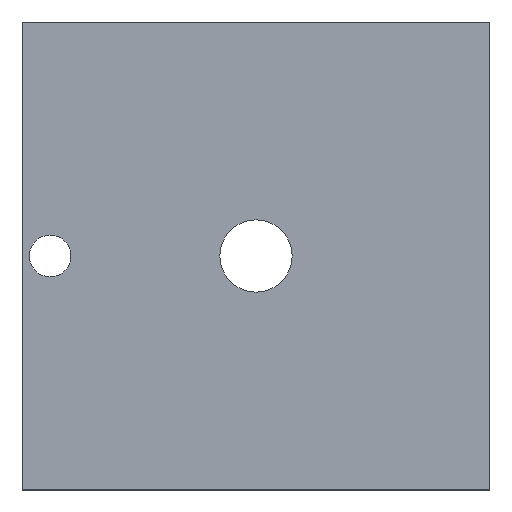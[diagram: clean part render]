
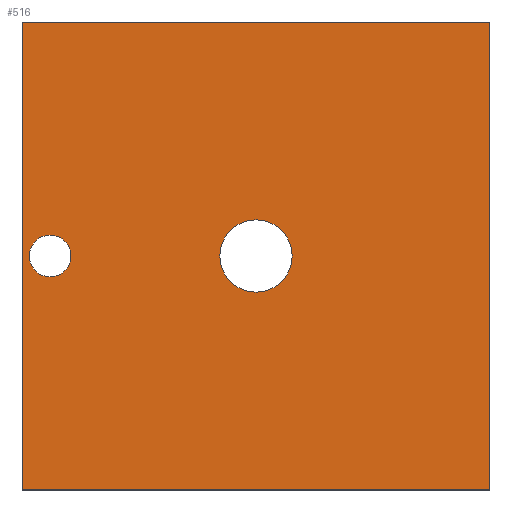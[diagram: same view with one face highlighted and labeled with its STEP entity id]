
A CAD part, top view. The second image highlights one B-rep face of the part: STEP entity #516.
In plain terms, the highlighted planar face has unit normal (0, 0, 1).
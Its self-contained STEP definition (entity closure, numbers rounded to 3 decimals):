
#24 = VERTEX_POINT('',#25);
#25 = CARTESIAN_POINT('',(841.,-841.,3.));
#32 = PLANE('',#33);
#33 = AXIS2_PLACEMENT_3D('',#34,#35,#36);
#34 = CARTESIAN_POINT('',(841.,-841.,0.));
#35 = DIRECTION('',(-0.,1.,-0.));
#36 = DIRECTION('',(1.,0.,0.));
#44 = PLANE('',#45);
#45 = AXIS2_PLACEMENT_3D('',#46,#47,#48);
#46 = CARTESIAN_POINT('',(841.,841.,0.));
#47 = DIRECTION('',(-1.,-0.,-0.));
#48 = DIRECTION('',(0.,1.,0.));
#56 = EDGE_CURVE('',#24,#57,#59,.T.);
#57 = VERTEX_POINT('',#58);
#58 = CARTESIAN_POINT('',(-841.,-841.,3.));
#59 = SURFACE_CURVE('',#60,(#64,#71),.PCURVE_S1.);
#60 = LINE('',#61,#62);
#61 = CARTESIAN_POINT('',(841.,-841.,3.));
#62 = VECTOR('',#63,1.);
#63 = DIRECTION('',(-1.,-0.,-0.));
#64 = PCURVE('',#32,#65);
#65 = DEFINITIONAL_REPRESENTATION('',(#66),#70);
#66 = LINE('',#67,#68);
#67 = CARTESIAN_POINT('',(-0.,-3.));
#68 = VECTOR('',#69,1.);
#69 = DIRECTION('',(-1.,0.));
#70 = ( GEOMETRIC_REPRESENTATION_CONTEXT(2) 
PARAMETRIC_REPRESENTATION_CONTEXT() REPRESENTATION_CONTEXT('2D SPACE',''
  ) );
#71 = PCURVE('',#72,#77);
#72 = PLANE('',#73);
#73 = AXIS2_PLACEMENT_3D('',#74,#75,#76);
#74 = CARTESIAN_POINT('',(0.,0.,3.));
#75 = DIRECTION('',(-0.,-0.,1.));
#76 = DIRECTION('',(1.,0.,0.));
#77 = DEFINITIONAL_REPRESENTATION('',(#78),#82);
#78 = LINE('',#79,#80);
#79 = CARTESIAN_POINT('',(841.,-841.));
#80 = VECTOR('',#81,1.);
#81 = DIRECTION('',(-1.,0.));
#82 = ( GEOMETRIC_REPRESENTATION_CONTEXT(2) 
PARAMETRIC_REPRESENTATION_CONTEXT() REPRESENTATION_CONTEXT('2D SPACE',''
  ) );
#100 = PLANE('',#101);
#101 = AXIS2_PLACEMENT_3D('',#102,#103,#104);
#102 = CARTESIAN_POINT('',(-841.,-841.,0.));
#103 = DIRECTION('',(1.,-0.,-0.));
#104 = DIRECTION('',(0.,-1.,0.));
#142 = EDGE_CURVE('',#57,#143,#145,.T.);
#143 = VERTEX_POINT('',#144);
#144 = CARTESIAN_POINT('',(-841.,841.,3.));
#145 = SURFACE_CURVE('',#146,(#150,#157),.PCURVE_S1.);
#146 = LINE('',#147,#148);
#147 = CARTESIAN_POINT('',(-841.,-841.,3.));
#148 = VECTOR('',#149,1.);
#149 = DIRECTION('',(-0.,1.,-0.));
#150 = PCURVE('',#100,#151);
#151 = DEFINITIONAL_REPRESENTATION('',(#152),#156);
#152 = LINE('',#153,#154);
#153 = CARTESIAN_POINT('',(-0.,-3.));
#154 = VECTOR('',#155,1.);
#155 = DIRECTION('',(-1.,0.));
#156 = ( GEOMETRIC_REPRESENTATION_CONTEXT(2) 
PARAMETRIC_REPRESENTATION_CONTEXT() REPRESENTATION_CONTEXT('2D SPACE',''
  ) );
#157 = PCURVE('',#72,#158);
#158 = DEFINITIONAL_REPRESENTATION('',(#159),#163);
#159 = LINE('',#160,#161);
#160 = CARTESIAN_POINT('',(-841.,-841.));
#161 = VECTOR('',#162,1.);
#162 = DIRECTION('',(-0.,1.));
#163 = ( GEOMETRIC_REPRESENTATION_CONTEXT(2) 
PARAMETRIC_REPRESENTATION_CONTEXT() REPRESENTATION_CONTEXT('2D SPACE',''
  ) );
#181 = PLANE('',#182);
#182 = AXIS2_PLACEMENT_3D('',#183,#184,#185);
#183 = CARTESIAN_POINT('',(-841.,841.,0.));
#184 = DIRECTION('',(-0.,-1.,-0.));
#185 = DIRECTION('',(-1.,0.,0.));
#218 = EDGE_CURVE('',#143,#219,#221,.T.);
#219 = VERTEX_POINT('',#220);
#220 = CARTESIAN_POINT('',(841.,841.,3.));
#221 = SURFACE_CURVE('',#222,(#226,#233),.PCURVE_S1.);
#222 = LINE('',#223,#224);
#223 = CARTESIAN_POINT('',(-841.,841.,3.));
#224 = VECTOR('',#225,1.);
#225 = DIRECTION('',(1.,-0.,-0.));
#226 = PCURVE('',#181,#227);
#227 = DEFINITIONAL_REPRESENTATION('',(#228),#232);
#228 = LINE('',#229,#230);
#229 = CARTESIAN_POINT('',(-0.,-3.));
#230 = VECTOR('',#231,1.);
#231 = DIRECTION('',(-1.,0.));
#232 = ( GEOMETRIC_REPRESENTATION_CONTEXT(2) 
PARAMETRIC_REPRESENTATION_CONTEXT() REPRESENTATION_CONTEXT('2D SPACE',''
  ) );
#233 = PCURVE('',#72,#234);
#234 = DEFINITIONAL_REPRESENTATION('',(#235),#239);
#235 = LINE('',#236,#237);
#236 = CARTESIAN_POINT('',(-841.,841.));
#237 = VECTOR('',#238,1.);
#238 = DIRECTION('',(1.,-0.));
#239 = ( GEOMETRIC_REPRESENTATION_CONTEXT(2) 
PARAMETRIC_REPRESENTATION_CONTEXT() REPRESENTATION_CONTEXT('2D SPACE',''
  ) );
#289 = EDGE_CURVE('',#219,#24,#290,.T.);
#290 = SURFACE_CURVE('',#291,(#295,#302),.PCURVE_S1.);
#291 = LINE('',#292,#293);
#292 = CARTESIAN_POINT('',(841.,841.,3.));
#293 = VECTOR('',#294,1.);
#294 = DIRECTION('',(-0.,-1.,-0.));
#295 = PCURVE('',#44,#296);
#296 = DEFINITIONAL_REPRESENTATION('',(#297),#301);
#297 = LINE('',#298,#299);
#298 = CARTESIAN_POINT('',(-0.,-3.));
#299 = VECTOR('',#300,1.);
#300 = DIRECTION('',(-1.,0.));
#301 = ( GEOMETRIC_REPRESENTATION_CONTEXT(2) 
PARAMETRIC_REPRESENTATION_CONTEXT() REPRESENTATION_CONTEXT('2D SPACE',''
  ) );
#302 = PCURVE('',#72,#303);
#303 = DEFINITIONAL_REPRESENTATION('',(#304),#308);
#304 = LINE('',#305,#306);
#305 = CARTESIAN_POINT('',(841.,841.));
#306 = VECTOR('',#307,1.);
#307 = DIRECTION('',(-0.,-1.));
#308 = ( GEOMETRIC_REPRESENTATION_CONTEXT(2) 
PARAMETRIC_REPRESENTATION_CONTEXT() REPRESENTATION_CONTEXT('2D SPACE',''
  ) );
#338 = VERTEX_POINT('',#339);
#339 = CARTESIAN_POINT('',(-130.,0.,3.));
#346 = CYLINDRICAL_SURFACE('',#347,130.);
#347 = AXIS2_PLACEMENT_3D('',#348,#349,#350);
#348 = CARTESIAN_POINT('',(0.,0.,0.));
#349 = DIRECTION('',(0.,-0.,-1.));
#350 = DIRECTION('',(-1.,-0.,-0.));
#365 = EDGE_CURVE('',#338,#338,#366,.T.);
#366 = SURFACE_CURVE('',#367,(#372,#379),.PCURVE_S1.);
#367 = CIRCLE('',#368,130.);
#368 = AXIS2_PLACEMENT_3D('',#369,#370,#371);
#369 = CARTESIAN_POINT('',(0.,0.,3.));
#370 = DIRECTION('',(0.,0.,-1.));
#371 = DIRECTION('',(-1.,-0.,-0.));
#372 = PCURVE('',#346,#373);
#373 = DEFINITIONAL_REPRESENTATION('',(#374),#378);
#374 = LINE('',#375,#376);
#375 = CARTESIAN_POINT('',(0.,-3.));
#376 = VECTOR('',#377,1.);
#377 = DIRECTION('',(1.,0.));
#378 = ( GEOMETRIC_REPRESENTATION_CONTEXT(2) 
PARAMETRIC_REPRESENTATION_CONTEXT() REPRESENTATION_CONTEXT('2D SPACE',''
  ) );
#379 = PCURVE('',#72,#380);
#380 = DEFINITIONAL_REPRESENTATION('',(#381),#389);
#381 = ( BOUNDED_CURVE() B_SPLINE_CURVE(2,(#382,#383,#384,#385,#386,#387
,#388),.UNSPECIFIED.,.T.,.F.) B_SPLINE_CURVE_WITH_KNOTS((1,2,2,2,2,1),(
    -2.094,0.,2.094,4.189,6.283,
8.378),.UNSPECIFIED.) CURVE() GEOMETRIC_REPRESENTATION_ITEM() 
RATIONAL_B_SPLINE_CURVE((1.,0.5,1.,0.5,1.,0.5,1.)) REPRESENTATION_ITEM(
  '') );
#382 = CARTESIAN_POINT('',(-130.,0.));
#383 = CARTESIAN_POINT('',(-130.,225.167));
#384 = CARTESIAN_POINT('',(65.,112.583));
#385 = CARTESIAN_POINT('',(260.,0.));
#386 = CARTESIAN_POINT('',(65.,-112.583));
#387 = CARTESIAN_POINT('',(-130.,-225.167));
#388 = CARTESIAN_POINT('',(-130.,0.));
#389 = ( GEOMETRIC_REPRESENTATION_CONTEXT(2) 
PARAMETRIC_REPRESENTATION_CONTEXT() REPRESENTATION_CONTEXT('2D SPACE',''
  ) );
#424 = VERTEX_POINT('',#425);
#425 = CARTESIAN_POINT('',(-815.,0.,3.));
#432 = CYLINDRICAL_SURFACE('',#433,75.);
#433 = AXIS2_PLACEMENT_3D('',#434,#435,#436);
#434 = CARTESIAN_POINT('',(-740.,0.,0.));
#435 = DIRECTION('',(0.,-0.,-1.));
#436 = DIRECTION('',(-1.,-0.,-0.));
#451 = EDGE_CURVE('',#424,#424,#452,.T.);
#452 = SURFACE_CURVE('',#453,(#458,#465),.PCURVE_S1.);
#453 = CIRCLE('',#454,75.);
#454 = AXIS2_PLACEMENT_3D('',#455,#456,#457);
#455 = CARTESIAN_POINT('',(-740.,0.,3.));
#456 = DIRECTION('',(0.,0.,-1.));
#457 = DIRECTION('',(-1.,-0.,-0.));
#458 = PCURVE('',#432,#459);
#459 = DEFINITIONAL_REPRESENTATION('',(#460),#464);
#460 = LINE('',#461,#462);
#461 = CARTESIAN_POINT('',(0.,-3.));
#462 = VECTOR('',#463,1.);
#463 = DIRECTION('',(1.,0.));
#464 = ( GEOMETRIC_REPRESENTATION_CONTEXT(2) 
PARAMETRIC_REPRESENTATION_CONTEXT() REPRESENTATION_CONTEXT('2D SPACE',''
  ) );
#465 = PCURVE('',#72,#466);
#466 = DEFINITIONAL_REPRESENTATION('',(#467),#475);
#467 = ( BOUNDED_CURVE() B_SPLINE_CURVE(2,(#468,#469,#470,#471,#472,#473
,#474),.UNSPECIFIED.,.T.,.F.) B_SPLINE_CURVE_WITH_KNOTS((1,2,2,2,2,1),(
    -2.094,0.,2.094,4.189,6.283,
8.378),.UNSPECIFIED.) CURVE() GEOMETRIC_REPRESENTATION_ITEM() 
RATIONAL_B_SPLINE_CURVE((1.,0.5,1.,0.5,1.,0.5,1.)) REPRESENTATION_ITEM(
  '') );
#468 = CARTESIAN_POINT('',(-815.,0.));
#469 = CARTESIAN_POINT('',(-815.,129.904));
#470 = CARTESIAN_POINT('',(-702.5,64.952));
#471 = CARTESIAN_POINT('',(-590.,0.));
#472 = CARTESIAN_POINT('',(-702.5,-64.952));
#473 = CARTESIAN_POINT('',(-815.,-129.904));
#474 = CARTESIAN_POINT('',(-815.,0.));
#475 = ( GEOMETRIC_REPRESENTATION_CONTEXT(2) 
PARAMETRIC_REPRESENTATION_CONTEXT() REPRESENTATION_CONTEXT('2D SPACE',''
  ) );
#516 = ADVANCED_FACE('',(#517,#523,#526),#72,.T.);
#517 = FACE_BOUND('',#518,.F.);
#518 = EDGE_LOOP('',(#519,#520,#521,#522));
#519 = ORIENTED_EDGE('',*,*,#56,.T.);
#520 = ORIENTED_EDGE('',*,*,#142,.T.);
#521 = ORIENTED_EDGE('',*,*,#218,.T.);
#522 = ORIENTED_EDGE('',*,*,#289,.T.);
#523 = FACE_BOUND('',#524,.T.);
#524 = EDGE_LOOP('',(#525));
#525 = ORIENTED_EDGE('',*,*,#365,.T.);
#526 = FACE_BOUND('',#527,.T.);
#527 = EDGE_LOOP('',(#528));
#528 = ORIENTED_EDGE('',*,*,#451,.T.);
